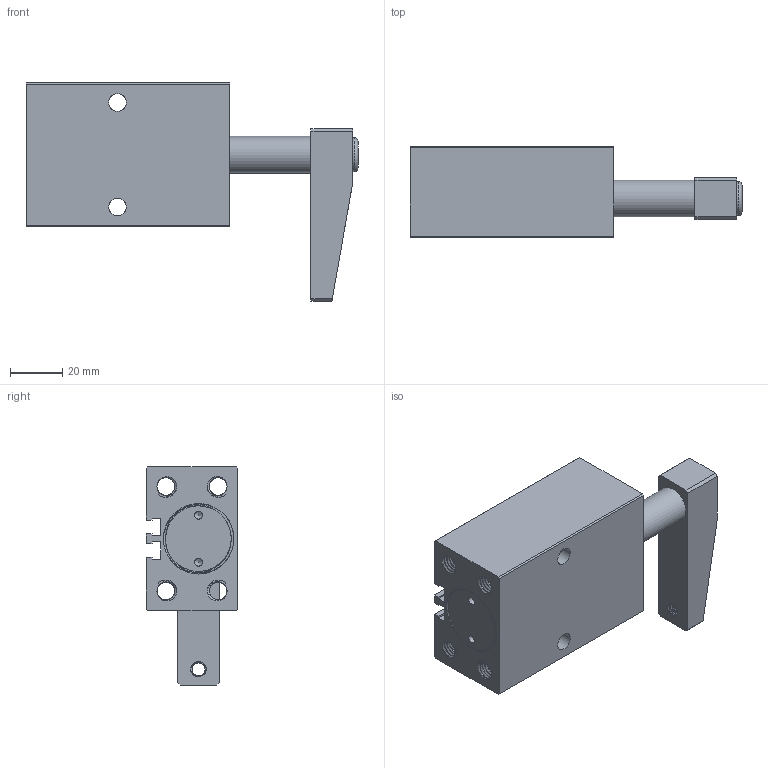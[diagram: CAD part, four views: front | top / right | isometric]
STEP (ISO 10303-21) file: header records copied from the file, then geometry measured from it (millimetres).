
FILE_DESCRIPTION(/* description */ (''),/* implementation_level */ '2;1');
FILE_NAME(/* name */ 'E:\SERWER_ZAPAS\Pneumatic\PSB PNEUMATIC SWING\PSB-25\PBS-25L_OTWARTY.stp',/* time_stamp */ '2019-02-05T12:03:34+01:00',/* author */ ('Admin'),/* organization */ (''),/* preprocessor_version */ 'ST-DEVELOPER v17.2',/* originating_system */ 'Autodesk Inventor 2019',/* authorisation */ '');
FILE_SCHEMA (('AUTOMOTIVE_DESIGN { 1 0 10303 214 3 1 1 }'));
Products named in the file (6): PBS-25L_OTWARTY; PSB-25BT; PSB-25HSG; PSB-25HG; PSB-25YB; M8X20
Assembly tree (5 placements, depth 2):
  PBS-25L_OTWARTY
    PSB-25BT
    PSB-25HSG
    PSB-25HG
    PSB-25YB
    M8X20
Bounding box: 127 x 35 x 83.5 mm (x, y, z)
Volume: 133666.6 mm3; surface area: 49804.1 mm2
Topology: 5 solids, 5 shells, 359 faces, 1011 edges, 668 vertices
Faces by surface type: cylinder 181, bspline 86, plane 75, torus 9, cone 8
Full cylindrical faces by diameter (mm): 1.5 x2, 3 x2, 4 x26, 5 x10, 6.8 x72, 7 x16, 8 x15, 9 x1, 11 x4, 13 x1, 14 x3, 22 x1, 25 x9, 27 x5
Entity records: 50248 total; most frequent: CARTESIAN_POINT 41750, ORIENTED_EDGE 2016, DIRECTION 1247, EDGE_CURVE 1008, VERTEX_POINT 668, B_SPLINE_CURVE_WITH_KNOTS 480, AXIS2_PLACEMENT_3D 434, EDGE_LOOP 398
